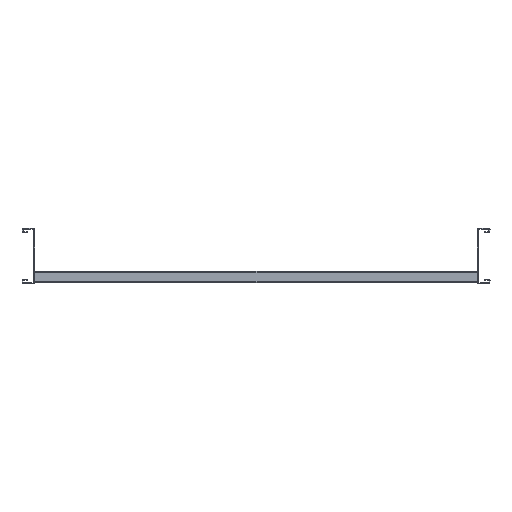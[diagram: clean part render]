
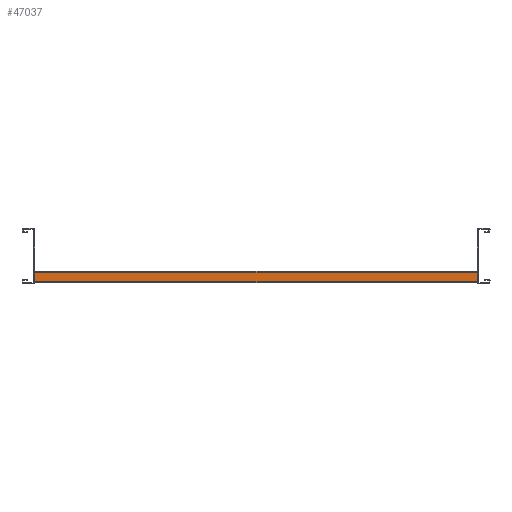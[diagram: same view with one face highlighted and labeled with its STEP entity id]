
A CAD part, left-side view. The second image highlights one B-rep face of the part: STEP entity #47037.
In plain terms, the highlighted planar face has unit normal (-1, 0, 0) as drawn and (0, 1, 0) by its records, which use the part's own axes.
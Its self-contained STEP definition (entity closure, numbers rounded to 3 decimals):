
#3263=FACE_OUTER_BOUND('',#6461,.T.);
#6461=EDGE_LOOP('',(#42334,#42335,#42336,#42337));
#12731=LINE('',#72296,#18971);
#12737=LINE('',#72313,#18977);
#12918=LINE('',#72998,#19158);
#12919=LINE('',#73000,#19159);
#18971=VECTOR('',#59486,304.8);
#18977=VECTOR('',#59498,304.8);
#19158=VECTOR('',#60027,304.8);
#19159=VECTOR('',#60030,304.8);
#23286=VERTEX_POINT('',#72293);
#23287=VERTEX_POINT('',#72295);
#23294=VERTEX_POINT('',#72310);
#23295=VERTEX_POINT('',#72312);
#29566=EDGE_CURVE('',#23286,#23287,#12731,.T.);
#29574=EDGE_CURVE('',#23294,#23295,#12737,.T.);
#29918=EDGE_CURVE('',#23295,#23286,#12918,.T.);
#29919=EDGE_CURVE('',#23294,#23287,#12919,.T.);
#42334=ORIENTED_EDGE('',*,*,#29566,.F.);
#42335=ORIENTED_EDGE('',*,*,#29918,.F.);
#42336=ORIENTED_EDGE('',*,*,#29574,.F.);
#42337=ORIENTED_EDGE('',*,*,#29919,.T.);
#44960=PLANE('',#49418);
#47037=ADVANCED_FACE('',(#3263),#44960,.T.);
#49418=AXIS2_PLACEMENT_3D('',#72999,#60028,#60029);
#59486=DIRECTION('',(0.,0.,-1.));
#59498=DIRECTION('',(0.,0.,1.));
#60027=DIRECTION('',(-1.,0.,0.));
#60028=DIRECTION('center_axis',(0.,1.,0.));
#60029=DIRECTION('ref_axis',(1.,0.,0.));
#60030=DIRECTION('',(-1.,0.,0.));
#72293=CARTESIAN_POINT('',(0.,20.,8.5));
#72295=CARTESIAN_POINT('',(0.,20.,-8.5));
#72296=CARTESIAN_POINT('',(0.,20.,8.5));
#72310=CARTESIAN_POINT('',(800.,20.,-8.5));
#72312=CARTESIAN_POINT('',(800.,20.,8.5));
#72313=CARTESIAN_POINT('',(800.,20.,-8.5));
#72998=CARTESIAN_POINT('',(0.,20.,8.5));
#72999=CARTESIAN_POINT('Origin',(0.,20.,8.5));
#73000=CARTESIAN_POINT('',(0.,20.,-8.5));
